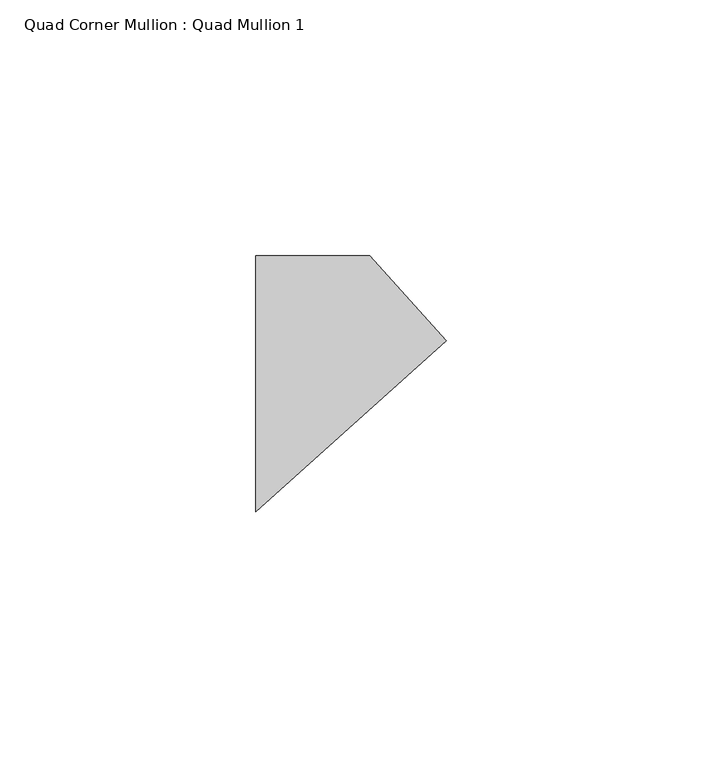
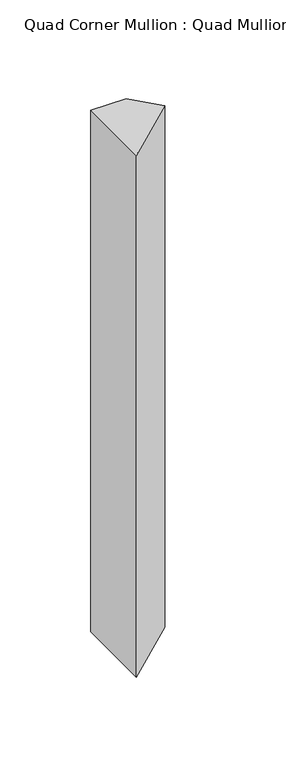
"""IFC4 building model written with IfcOpenShell, lengths in millimetres: member geometry, Quad Corner Mullion : Quad Mullion 1."""

from ifc_helpers import new_model, si_unit, frame, origin, place, context, project, spatial, polyline, outline, extrude, source, transform, mapped, element, save


def quad_corner_mullion_quad_mullion_1_56adef46(model_context):
    return source(origin(), model_context, "Body", "SweptSolid", [
        extrude(outline(polyline([(26.0265241, 8.4565303), (-11.1307171, -25.0), (-11.1307171, 25.0), (11.1307171, 25.0), (26.0265241, 8.4565303)])), frame((0.0, 0.0, -350.0), z_axis=(0.0, 0.0, 1.0), x_axis=(1.0, 0.0, 0.0)), (0.0, 0.0, 1.0), 350.0),
    ])


if __name__ == "__main__":
    model = new_model("IFC4")
    model_context = context("Model", 3, world=origin())
    ifc_project = project(units=[si_unit("LENGTHUNIT", "METRE", prefix="MILLI")], contexts=[model_context])
    site = spatial("IfcSite", under=ifc_project)
    building = spatial("IfcBuilding", under=site)
    placement = place(None, origin())
    quad_corner_mullion_quad_mullion_1_shape = quad_corner_mullion_quad_mullion_1_56adef46(model_context)
    element("IfcMember", 1, ObjectType="Quad Corner Mullion : Quad Mullion 1", at=placement, inside=building, context=model_context, shape_type="MappedRepresentation", body=[
        mapped(quad_corner_mullion_quad_mullion_1_shape, transform((0.0, 0.0, 0.0), x_axis=(1.0, 0.0, 0.0), y_axis=(0.0, 1.0, 0.0), z_axis=(0.0, 0.0, 1.0))),
    ])
    save(model, "model.ifc")
